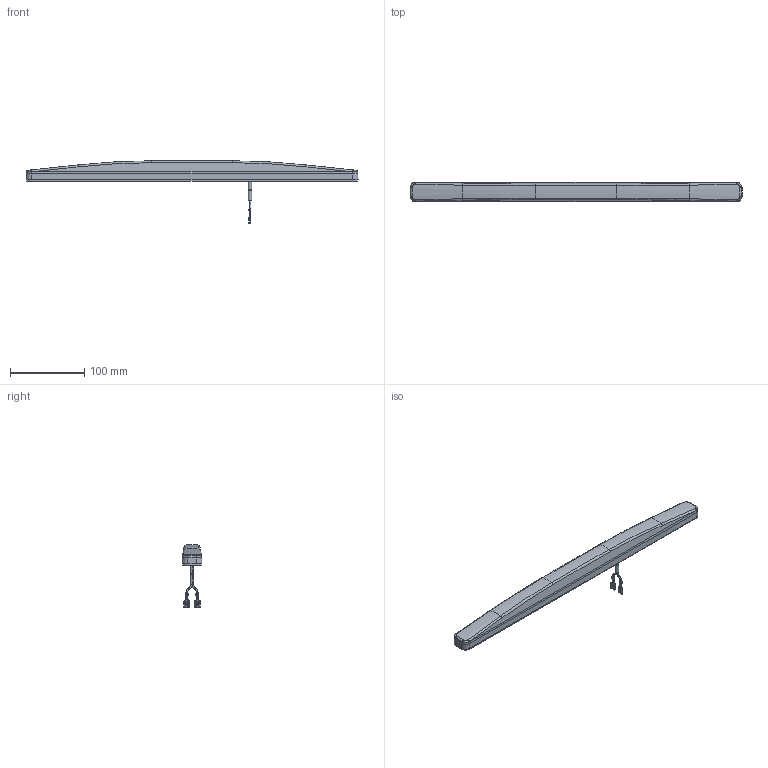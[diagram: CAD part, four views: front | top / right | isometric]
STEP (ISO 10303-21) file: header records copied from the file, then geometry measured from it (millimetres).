
FILE_DESCRIPTION(('CATIA V5 STEP Exchange','CAx-IF Rec.Pracs.--- Model Styling and Organization---1.5--- 2016-08-15','CAx-IF Rec.Pracs.---Supplemental Geometry---1.0---2011-11-01','CAx-IF Rec.Pracs.--- Composite Materials ---1.1---2010-07-15'),'2;1');
FILE_NAME('E:\tmp\ddx\2011206\HELLA_3D_data_LED_auxiliary_stop_lamp_Long_LED_45_2DA-012-596.stp','2022-01-18T07:28:17+00:00',('none'),('none'),'CATIA Version 5-6 Release 2020 SP3 HF9','CATIA V5 STEP AP214 Edition 3 v2','none');
FILE_SCHEMA(('AUTOMOTIVE_DESIGN { 1 0 10303 214 3 1 1 1 }'));
Length unit declared in the file: millimetre
Products named in the file (1): 10001889165_D10_001
Bounding box: 446.6 x 26.6 x 84.07 mm (x, y, z)
Volume: 262130.4 mm3; surface area: 44152 mm2
Topology: 2 solids, 2 shells, 433 faces, 1175 edges, 726 vertices
Faces by surface type: cylinder 192, plane 112, bspline 72, extrusion 30, cone 12, torus 11, sphere 4
Entity records: 19245 total; most frequent: CARTESIAN_POINT 9936, ORIENTED_EDGE 2342, DIRECTION 1238, EDGE_CURVE 1171, VERTEX_POINT 726, B_SPLINE_CURVE_WITH_KNOTS 585, VECTOR 465, AXIS2_PLACEMENT_3D 449
